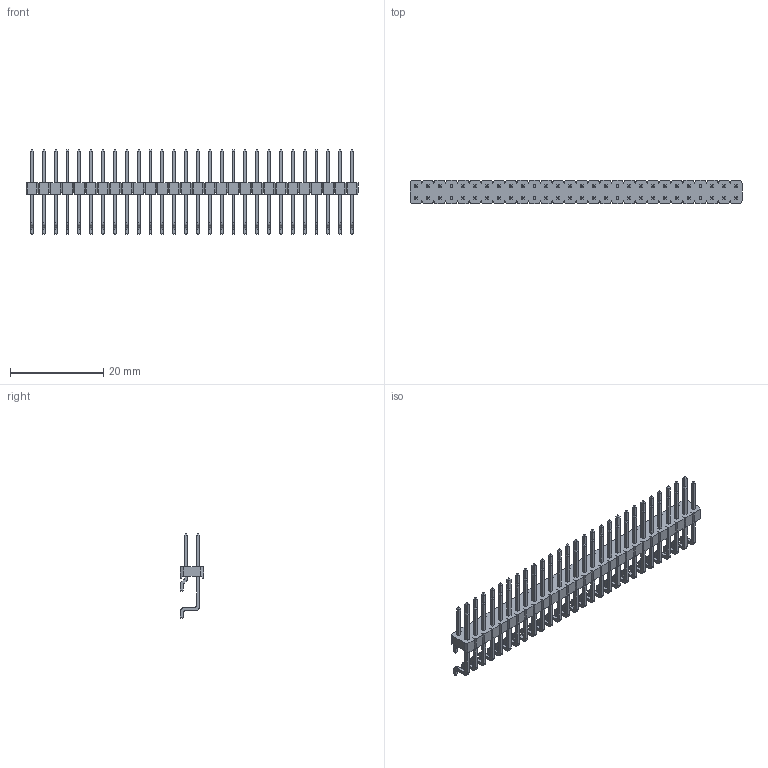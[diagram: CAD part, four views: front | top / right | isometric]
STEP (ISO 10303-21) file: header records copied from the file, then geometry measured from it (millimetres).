
FILE_DESCRIPTION(/* description */ (''),/* implementation_level */ '2;1');
FILE_NAME(/* name */ '961256-5900-XX-XX.stp',/* time_stamp */ '2008-06-11T13:24:16+02:00',/* author */ (''),/* organization */ (''),/* preprocessor_version */ 'ST-DEVELOPER v11',/* originating_system */ 'UGS - NX 5.0',/* authorisation */ '');
FILE_SCHEMA (('AUTOMOTIVE_DESIGN { 1 0 10303 214 1 1 1 1 }'));
Length unit declared in the file: millimetre
Products named in the file (1): 961256-5900-XX-XX
Bounding box: 71.12 x 5.02 x 18.2 mm (x, y, z)
Volume: 1073.7 mm3; surface area: 3269.5 mm2
Topology: 1 solids, 1 shells, 1740 faces, 4430 edges, 2804 vertices
Faces by surface type: plane 1516, cylinder 224
Entity records: 51242 total; most frequent: CARTESIAN_POINT 8975, ORIENTED_EDGE 8860, DIRECTION 8360, EDGE_CURVE 4430, LINE 3982, VECTOR 3982, VERTEX_POINT 2804, AXIS2_PLACEMENT_3D 2189
